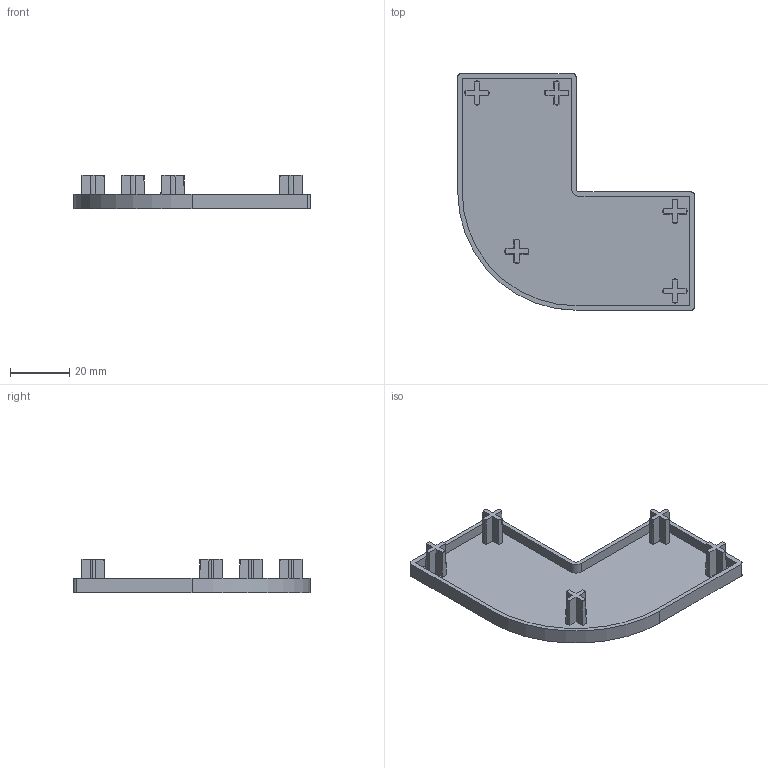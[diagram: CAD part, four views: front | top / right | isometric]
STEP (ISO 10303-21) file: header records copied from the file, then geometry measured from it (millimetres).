
FILE_DESCRIPTION (( 'STEP AP203' ), '1' );
FILE_NAME ('ECR8840-8.STEP', '2024-02-19T06:00:09', ( '' ), ( '' ), 'SwSTEP 2.0', 'SolidWorks 2022', '' );
FILE_SCHEMA (( 'CONFIG_CONTROL_DESIGN' ));
Length unit declared in the file: millimetre
Products named in the file (1): ECR8840-8
Bounding box: 80 x 80 x 11.5 mm (x, y, z)
Volume: 9449.7 mm3; surface area: 12927 mm2
Topology: 1 solids, 1 shells, 93 faces, 255 edges, 170 vertices
Faces by surface type: plane 60, cone 25, cylinder 8
Entity records: 3192 total; most frequent: CARTESIAN_POINT 759, ORIENTED_EDGE 510, DIRECTION 469, EDGE_CURVE 255, VERTEX_POINT 170, AXIS2_PLACEMENT_3D 160, VECTOR 149, LINE 149
